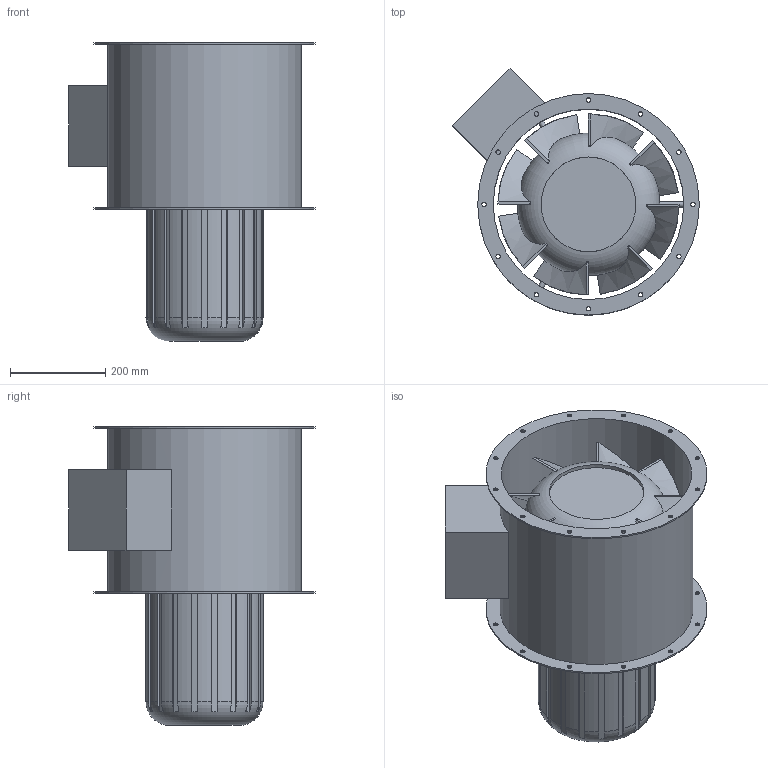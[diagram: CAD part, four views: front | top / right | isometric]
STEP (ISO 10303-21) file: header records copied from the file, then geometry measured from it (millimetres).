
FILE_DESCRIPTION(/* description */ (''),/* implementation_level */ '2;1');
FILE_NAME(/* name */ 'Z:\Output\VARD_400-2_EX-06694-002.stp',/* time_stamp */ '2017-10-09T10:50:27+02:00',/* author */ ('jayeshpanchal'),/* organization */ (''),/* preprocessor_version */ 'ST-DEVELOPER v16.5',/* originating_system */ 'Autodesk Inventor 2017',/* authorisation */ '');
FILE_SCHEMA (('AUTOMOTIVE_DESIGN { 1 0 10303 214 3 1 1 }'));
Length unit declared in the file: millimetre
Products named in the file (1): AVD-RK
Bounding box: 517.46 x 517.46 x 627 mm (x, y, z)
Volume: 31660923.3 mm3; surface area: 1959202.6 mm2
Topology: 1 solids, 1 shells, 165 faces, 488 edges, 331 vertices
Faces by surface type: plane 83, cylinder 52, bspline 24, torus 4, cone 2
Full cylindrical faces by diameter (mm): 9.5 x24, 11.5 x3, 35 x1, 199 x1, 299 x1, 400 x1, 406 x1, 465 x2
Entity records: 6070 total; most frequent: CARTESIAN_POINT 1925, ORIENTED_EDGE 854, DIRECTION 780, EDGE_CURVE 427, AXIS2_PLACEMENT_3D 325, VERTEX_POINT 311, EDGE_LOOP 260, FACE_OUTER_BOUND 162
